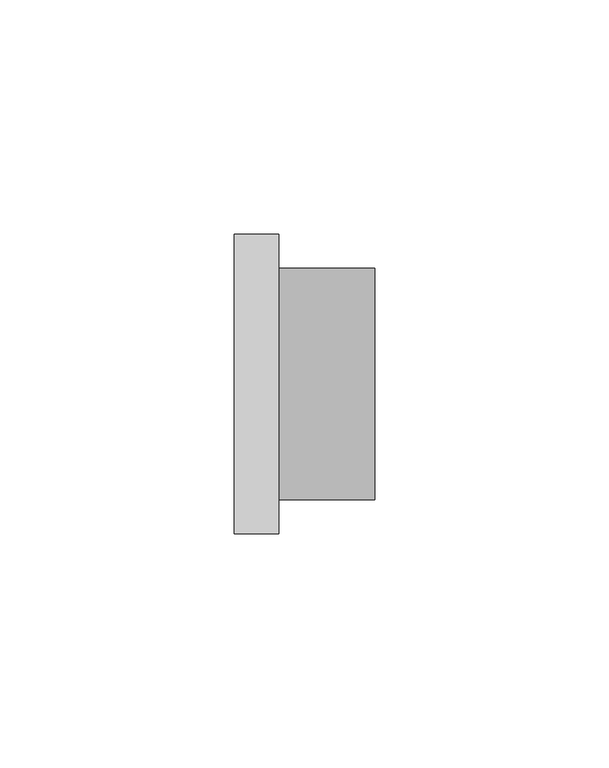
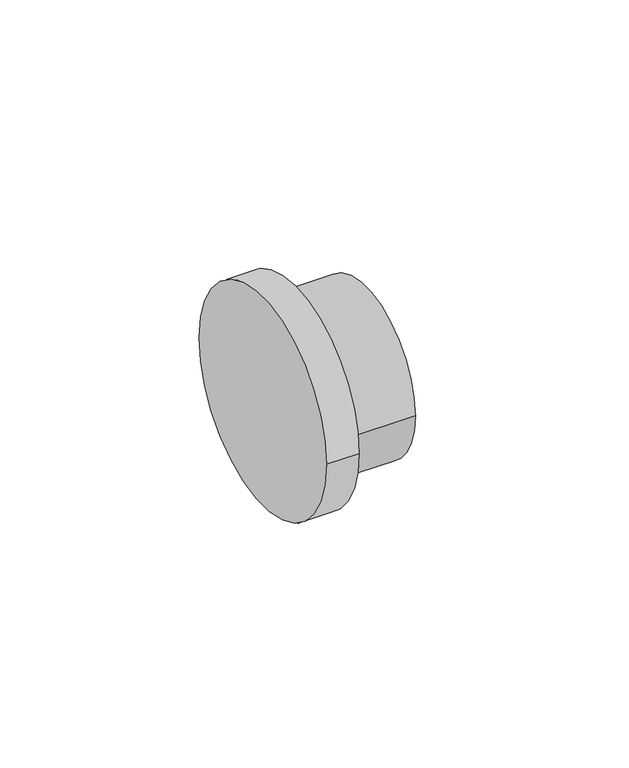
"""IFC4 building model written with IfcOpenShell, lengths in millimetres: pipe fitting geometry, NIRON RED termofusion casquillo : Estándar."""

from ifc_helpers import new_model, si_unit, point, frame, origin, origin_2d, place, context, project, spatial, circle_curve, trimmed, segment, composite_curve, outline, extrude, source, transform, mapped, element, save


def pipe_fitting_c0f1c264(model_context):
    return source(origin(), model_context, "Body", "SweptSolid", [
        extrude(outline(composite_curve([segment(trimmed(circle_curve(origin_2d(), 24.7), [point((24.7, 0.0))], [point((-24.7, 0.0))], False, "CARTESIAN"), True, "CONTINUOUS"), segment(trimmed(circle_curve(origin_2d(), 24.7), [point((-24.7, 0.0))], [point((24.7, 0.0))], False, "CARTESIAN"), True, "CONTINUOUS")], self_intersect=False)), frame((9.5, 0.0, 0.0), z_axis=(1.0, 0.0, 0.0), x_axis=(0.0, 1.0, 0.0)), (0.0, 0.0, 1.0), 20.5),
        extrude(outline(composite_curve([segment(trimmed(circle_curve(origin_2d(), 32.0), [point((-32.0, 0.0))], [point((32.0, 0.0))], False, "CARTESIAN"), True, "CONTINUOUS"), segment(trimmed(circle_curve(origin_2d(), 32.0), [point((32.0, 0.0))], [point((-32.0, 0.0))], False, "CARTESIAN"), True, "CONTINUOUS")], self_intersect=False)), frame((0.0, 0.0, 0.0), z_axis=(1.0, 0.0, 0.0), x_axis=(0.0, 1.0, 0.0)), (0.0, 0.0, 1.0), 9.5),
    ])


if __name__ == "__main__":
    model = new_model("IFC4")
    model_context = context("Model", 3, world=origin())
    ifc_project = project(units=[si_unit("LENGTHUNIT", "METRE", prefix="MILLI")], contexts=[model_context])
    site = spatial("IfcSite", under=ifc_project)
    building = spatial("IfcBuilding", under=site)
    placement = place(None, origin())
    pipe_fitting_shape = pipe_fitting_c0f1c264(model_context)
    element("IfcPipeFitting", 1, ObjectType="NIRON RED termofusion casquillo : Estándar", at=placement, inside=building, context=model_context, shape_type="MappedRepresentation", body=[
        mapped(pipe_fitting_shape, transform((0.0, 0.0, 0.0), x_axis=(1.0, 0.0, 0.0), y_axis=(0.0, 1.0, 0.0), z_axis=(0.0, 0.0, 1.0))),
    ])
    save(model, "model.ifc")
